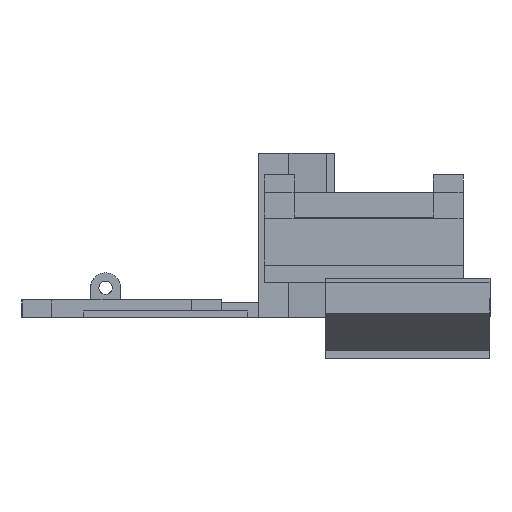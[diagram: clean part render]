
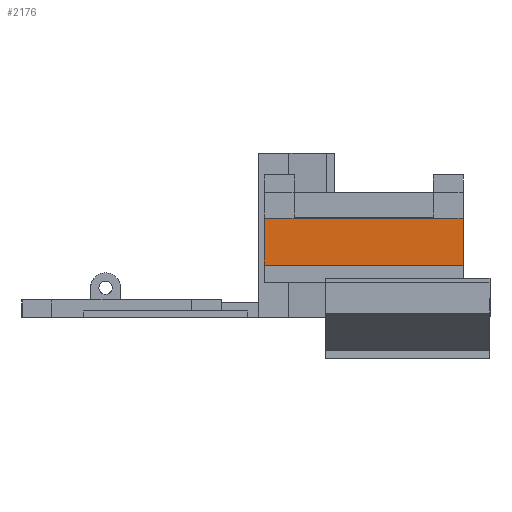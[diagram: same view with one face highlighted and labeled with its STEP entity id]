
A CAD part, left-side view. The second image highlights one B-rep face of the part: STEP entity #2176.
In plain terms, the highlighted free-form (B-spline) face has degree [1, 1] with [2, 2] control points.
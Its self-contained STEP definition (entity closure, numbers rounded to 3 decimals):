
#2176=ADVANCED_FACE('',(#3150),#33594,.T.);
#3150=FACE_OUTER_BOUND('',#4225,.T.);
#4225=EDGE_LOOP('',(#7076,#7077,#7078,#7079,#7080,#7081));
#7076=ORIENTED_EDGE('',*,*,#23636,.T.);
#7077=ORIENTED_EDGE('',*,*,#23637,.T.);
#7078=ORIENTED_EDGE('',*,*,#23638,.T.);
#7079=ORIENTED_EDGE('',*,*,#23639,.T.);
#7080=ORIENTED_EDGE('',*,*,#23640,.T.);
#7081=ORIENTED_EDGE('',*,*,#23641,.T.);
#12118=PCURVE('',#33594,#17160);
#12119=PCURVE('',#33594,#17161);
#12120=PCURVE('',#33594,#17162);
#12121=PCURVE('',#33594,#17163);
#12122=PCURVE('',#33594,#17164);
#12123=PCURVE('',#33594,#17165);
#12124=PCURVE('',#33595,#17166);
#12131=PCURVE('',#33603,#17173);
#12134=PCURVE('',#33604,#17176);
#12189=PCURVE('',#33608,#17231);
#12254=PCURVE('',#33616,#17296);
#12295=PCURVE('',#33593,#17337);
#17160=DEFINITIONAL_REPRESENTATION('',(#27819),#66295);
#17161=DEFINITIONAL_REPRESENTATION('',(#27821),#66295);
#17162=DEFINITIONAL_REPRESENTATION('',(#27823),#66295);
#17163=DEFINITIONAL_REPRESENTATION('',(#27825),#66295);
#17164=DEFINITIONAL_REPRESENTATION('',(#27827),#66295);
#17165=DEFINITIONAL_REPRESENTATION('',(#27829),#66295);
#17166=DEFINITIONAL_REPRESENTATION('',(#27830),#66295);
#17173=DEFINITIONAL_REPRESENTATION('',(#27840),#66295);
#17176=DEFINITIONAL_REPRESENTATION('',(#27843),#66295);
#17231=DEFINITIONAL_REPRESENTATION('',(#27917),#66295);
#17296=DEFINITIONAL_REPRESENTATION('',(#27987),#66295);
#17337=DEFINITIONAL_REPRESENTATION('',(#28019),#66295);
#21115=SURFACE_CURVE('',#27818,(#12118,#12189),.PCURVE_S1.);
#21116=SURFACE_CURVE('',#27820,(#12119,#12295),.PCURVE_S1.);
#21117=SURFACE_CURVE('',#27822,(#12120,#12254),.PCURVE_S1.);
#21118=SURFACE_CURVE('',#27824,(#12121,#12134),.PCURVE_S1.);
#21119=SURFACE_CURVE('',#27826,(#12122,#12124),.PCURVE_S1.);
#21120=SURFACE_CURVE('',#27828,(#12123,#12131),.PCURVE_S1.);
#23636=EDGE_CURVE('',#32071,#32108,#21115,.T.);
#23637=EDGE_CURVE('',#32108,#32123,#21116,.T.);
#23638=EDGE_CURVE('',#32123,#32072,#21117,.T.);
#23639=EDGE_CURVE('',#32072,#32074,#21118,.T.);
#23640=EDGE_CURVE('',#32074,#32073,#21119,.T.);
#23641=EDGE_CURVE('',#32073,#32071,#21120,.T.);
#27818=B_SPLINE_CURVE_WITH_KNOTS('',1,(#48380,#48381),.UNSPECIFIED.,.F.,
 .F.,(2,2),(0.,5.266),.UNSPECIFIED.);
#27819=B_SPLINE_CURVE_WITH_KNOTS('',1,(#48382,#48383),.UNSPECIFIED.,.F.,
 .F.,(2,2),(0.,5.266),.UNSPECIFIED.);
#27820=B_SPLINE_CURVE_WITH_KNOTS('',1,(#48384,#48385),.UNSPECIFIED.,.F.,
 .F.,(2,2),(5.266,29.721),.UNSPECIFIED.);
#27821=B_SPLINE_CURVE_WITH_KNOTS('',1,(#48386,#48387),.UNSPECIFIED.,.F.,
 .F.,(2,2),(5.266,29.721),.UNSPECIFIED.);
#27822=B_SPLINE_CURVE_WITH_KNOTS('',1,(#48388,#48389),.UNSPECIFIED.,.F.,
 .F.,(2,2),(29.721,34.987),.UNSPECIFIED.);
#27823=B_SPLINE_CURVE_WITH_KNOTS('',1,(#48390,#48391),.UNSPECIFIED.,.F.,
 .F.,(2,2),(29.721,34.987),.UNSPECIFIED.);
#27824=B_SPLINE_CURVE_WITH_KNOTS('',1,(#48392,#48393),.UNSPECIFIED.,.F.,
 .F.,(2,2),(14.957,26.402),.UNSPECIFIED.);
#27825=B_SPLINE_CURVE_WITH_KNOTS('',1,(#48394,#48395),.UNSPECIFIED.,.F.,
 .F.,(2,2),(14.957,26.402),.UNSPECIFIED.);
#27826=B_SPLINE_CURVE_WITH_KNOTS('',1,(#48396,#48397),.UNSPECIFIED.,.F.,
 .F.,(2,2),(-34.987,0.),.UNSPECIFIED.);
#27827=B_SPLINE_CURVE_WITH_KNOTS('',1,(#48398,#48399),.UNSPECIFIED.,.F.,
 .F.,(2,2),(-34.987,0.),.UNSPECIFIED.);
#27828=B_SPLINE_CURVE_WITH_KNOTS('',1,(#48400,#48401),.UNSPECIFIED.,.F.,
 .F.,(2,2),(-26.402,-14.957),.UNSPECIFIED.);
#27829=B_SPLINE_CURVE_WITH_KNOTS('',1,(#48402,#48403),.UNSPECIFIED.,.F.,
 .F.,(2,2),(-26.402,-14.957),.UNSPECIFIED.);
#27830=B_SPLINE_CURVE_WITH_KNOTS('',1,(#48404,#48405),.UNSPECIFIED.,.F.,
 .F.,(2,2),(-34.987,0.),.UNSPECIFIED.);
#27840=B_SPLINE_CURVE_WITH_KNOTS('',1,(#48424,#48425),.UNSPECIFIED.,.F.,
 .F.,(2,2),(-26.402,-14.957),.UNSPECIFIED.);
#27843=B_SPLINE_CURVE_WITH_KNOTS('',1,(#48430,#48431),.UNSPECIFIED.,.F.,
 .F.,(2,2),(14.957,26.402),.UNSPECIFIED.);
#27917=B_SPLINE_CURVE_WITH_KNOTS('',1,(#48666,#48667),.UNSPECIFIED.,.F.,
 .F.,(2,2),(0.,5.266),.UNSPECIFIED.);
#27987=B_SPLINE_CURVE_WITH_KNOTS('',1,(#48908,#48909),.UNSPECIFIED.,.F.,
 .F.,(2,2),(29.721,34.987),.UNSPECIFIED.);
#28019=B_SPLINE_CURVE_WITH_KNOTS('',1,(#49074,#49075),.UNSPECIFIED.,.F.,
 .F.,(2,2),(5.266,29.721),.UNSPECIFIED.);
#32071=VERTEX_POINT('',#47986);
#32072=VERTEX_POINT('',#47987);
#32073=VERTEX_POINT('',#47988);
#32074=VERTEX_POINT('',#47989);
#32108=VERTEX_POINT('',#48023);
#32123=VERTEX_POINT('',#48038);
#33593=B_SPLINE_SURFACE_WITH_KNOTS('',1,1,((#47692,#47693),(#47694,#47695)),
 .UNSPECIFIED.,.F.,.F.,.F.,(2,2),(2,2),(0.,34.987),(11.445,
14.957),.UNSPECIFIED.);
#33594=B_SPLINE_SURFACE_WITH_KNOTS('',1,1,((#47696,#47697),(#47698,#47699)),
 .UNSPECIFIED.,.F.,.F.,.F.,(2,2),(2,2),(0.,34.987),(14.957,
26.402),.UNSPECIFIED.);
#33595=B_SPLINE_SURFACE_WITH_KNOTS('',1,1,((#47700,#47701),(#47702,#47703)),
 .UNSPECIFIED.,.F.,.F.,.F.,(2,2),(2,2),(0.,34.987),(26.402,
29.914),.UNSPECIFIED.);
#33603=B_SPLINE_SURFACE_WITH_KNOTS('',1,1,((#47904,#47905),(#47906,#47907)),
 .UNSPECIFIED.,.F.,.F.,.F.,(2,2),(2,2),(0.,11.445),(0.,3.512),
 .UNSPECIFIED.);
#33604=B_SPLINE_SURFACE_WITH_KNOTS('',1,1,((#47908,#47909),(#47910,#47911)),
 .UNSPECIFIED.,.F.,.F.,.F.,(2,2),(2,2),(0.,3.512),(0.,11.445),
 .UNSPECIFIED.);
#33608=B_SPLINE_SURFACE_WITH_KNOTS('',1,1,((#47924,#47925),(#47926,#47927)),
 .UNSPECIFIED.,.F.,.F.,.F.,(2,2),(2,2),(-34.987,0.),(0.,6.267),
 .UNSPECIFIED.);
#33616=B_SPLINE_SURFACE_WITH_KNOTS('',1,1,((#47956,#47957),(#47958,#47959)),
 .UNSPECIFIED.,.F.,.F.,.F.,(2,2),(2,2),(-34.987,0.),(0.,6.267),
 .UNSPECIFIED.);
#47692=CARTESIAN_POINT('',(-47.035,14.676,24.129));
#47693=CARTESIAN_POINT('',(-50.547,14.676,24.129));
#47694=CARTESIAN_POINT('',(-47.035,63.176,24.129));
#47695=CARTESIAN_POINT('',(-50.547,63.176,24.129));
#47696=CARTESIAN_POINT('',(-50.547,14.676,24.129));
#47697=CARTESIAN_POINT('',(-50.547,14.676,12.684));
#47698=CARTESIAN_POINT('',(-50.547,63.176,24.129));
#47699=CARTESIAN_POINT('',(-50.547,63.176,12.684));
#47700=CARTESIAN_POINT('',(-50.547,14.676,12.684));
#47701=CARTESIAN_POINT('',(-47.035,14.676,12.684));
#47702=CARTESIAN_POINT('',(-50.547,63.176,12.684));
#47703=CARTESIAN_POINT('',(-47.035,63.176,12.684));
#47904=CARTESIAN_POINT('',(-47.035,14.676,12.684));
#47905=CARTESIAN_POINT('',(-50.547,14.676,12.684));
#47906=CARTESIAN_POINT('',(-47.035,14.676,24.129));
#47907=CARTESIAN_POINT('',(-50.547,14.676,24.129));
#47908=CARTESIAN_POINT('',(-47.035,63.176,12.684));
#47909=CARTESIAN_POINT('',(-47.035,63.176,24.129));
#47910=CARTESIAN_POINT('',(-50.547,63.176,12.684));
#47911=CARTESIAN_POINT('',(-50.547,63.176,24.129));
#47924=CARTESIAN_POINT('',(-50.547,63.176,24.129));
#47925=CARTESIAN_POINT('',(-50.547,63.176,30.396));
#47926=CARTESIAN_POINT('',(-50.547,14.676,24.129));
#47927=CARTESIAN_POINT('',(-50.547,14.676,30.396));
#47956=CARTESIAN_POINT('',(-50.547,63.176,24.129));
#47957=CARTESIAN_POINT('',(-50.547,63.176,30.396));
#47958=CARTESIAN_POINT('',(-50.547,14.676,24.129));
#47959=CARTESIAN_POINT('',(-50.547,14.676,30.396));
#47986=CARTESIAN_POINT('',(-50.547,14.676,24.129));
#47987=CARTESIAN_POINT('',(-50.547,63.176,24.129));
#47988=CARTESIAN_POINT('',(-50.547,14.676,12.684));
#47989=CARTESIAN_POINT('',(-50.547,63.176,12.684));
#48023=CARTESIAN_POINT('',(-50.547,21.976,24.129));
#48038=CARTESIAN_POINT('',(-50.547,55.876,24.129));
#48380=CARTESIAN_POINT('',(-50.547,14.676,24.129));
#48381=CARTESIAN_POINT('',(-50.547,21.976,24.129));
#48382=CARTESIAN_POINT('',(0.,14.957));
#48383=CARTESIAN_POINT('',(5.266,14.957));
#48384=CARTESIAN_POINT('',(-50.547,21.976,24.129));
#48385=CARTESIAN_POINT('',(-50.547,55.876,24.129));
#48386=CARTESIAN_POINT('',(5.266,14.957));
#48387=CARTESIAN_POINT('',(29.721,14.957));
#48388=CARTESIAN_POINT('',(-50.547,55.876,24.129));
#48389=CARTESIAN_POINT('',(-50.547,63.176,24.129));
#48390=CARTESIAN_POINT('',(29.721,14.957));
#48391=CARTESIAN_POINT('',(34.987,14.957));
#48392=CARTESIAN_POINT('',(-50.547,63.176,24.129));
#48393=CARTESIAN_POINT('',(-50.547,63.176,12.684));
#48394=CARTESIAN_POINT('',(34.987,14.957));
#48395=CARTESIAN_POINT('',(34.987,26.402));
#48396=CARTESIAN_POINT('',(-50.547,63.176,12.684));
#48397=CARTESIAN_POINT('',(-50.547,14.676,12.684));
#48398=CARTESIAN_POINT('',(34.987,26.402));
#48399=CARTESIAN_POINT('',(0.,26.402));
#48400=CARTESIAN_POINT('',(-50.547,14.676,12.684));
#48401=CARTESIAN_POINT('',(-50.547,14.676,24.129));
#48402=CARTESIAN_POINT('',(0.,26.402));
#48403=CARTESIAN_POINT('',(0.,14.957));
#48404=CARTESIAN_POINT('',(34.987,26.402));
#48405=CARTESIAN_POINT('',(0.,26.402));
#48424=CARTESIAN_POINT('',(0.,3.512));
#48425=CARTESIAN_POINT('',(11.445,3.512));
#48430=CARTESIAN_POINT('',(3.512,11.445));
#48431=CARTESIAN_POINT('',(3.512,0.));
#48666=CARTESIAN_POINT('',(0.,0.));
#48667=CARTESIAN_POINT('',(-5.266,0.));
#48908=CARTESIAN_POINT('',(-29.721,0.));
#48909=CARTESIAN_POINT('',(-34.987,0.));
#49074=CARTESIAN_POINT('',(5.266,14.957));
#49075=CARTESIAN_POINT('',(29.721,14.957));
#66295=(
GEOMETRIC_REPRESENTATION_CONTEXT(2)
PARAMETRIC_REPRESENTATION_CONTEXT()
REPRESENTATION_CONTEXT('pspace','')
);
